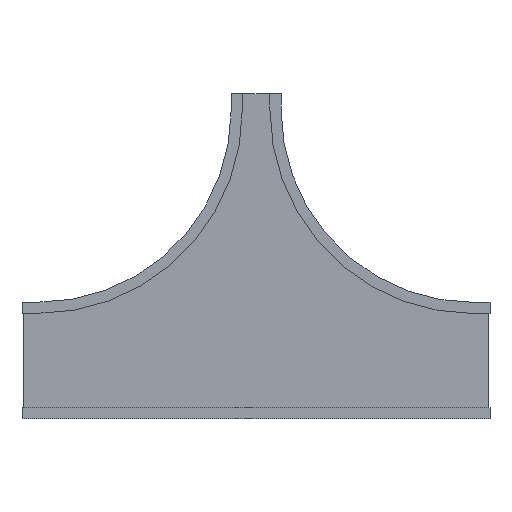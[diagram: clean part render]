
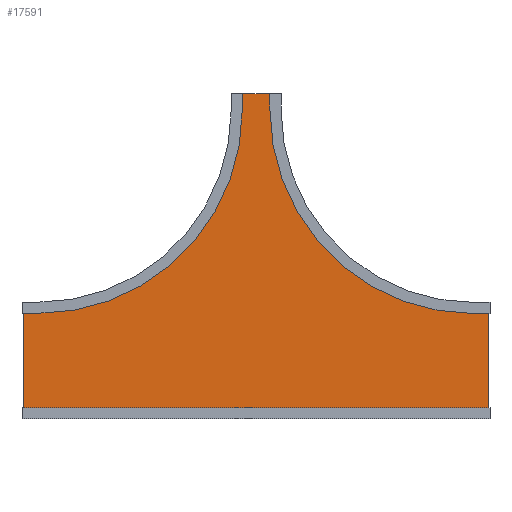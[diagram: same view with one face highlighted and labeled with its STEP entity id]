
A CAD part, front view. The second image highlights one B-rep face of the part: STEP entity #17591.
In plain terms, the highlighted planar face has unit normal (0, -1, 0).
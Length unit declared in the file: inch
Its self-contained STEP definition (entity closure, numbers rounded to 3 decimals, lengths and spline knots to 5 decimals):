
#17400=DIRECTION('',(1.,0.,0.));
#17401=VECTOR('',#17400,5.875);
#17402=CARTESIAN_POINT('',(-2.9375,0.,0.));
#17403=LINE('',#17402,#17401);
#17404=DIRECTION('',(0.,0.,-1.));
#17405=VECTOR('',#17404,2.875);
#17406=CARTESIAN_POINT('',(2.9375,0.,0.));
#17407=LINE('',#17406,#17405);
#17408=CARTESIAN_POINT('',(39.,0.,-2.875));
#17409=DIRECTION('',(0.,-1.,0.));
#17410=DIRECTION('',(-1.,0.,0.));
#17411=AXIS2_PLACEMENT_3D('',#17408,#17409,#17410);
#17413=DIRECTION('',(1.,0.,0.));
#17414=VECTOR('',#17413,2.875);
#17415=CARTESIAN_POINT('',(39.,0.,-38.9375));
#17416=LINE('',#17415,#17414);
#17417=DIRECTION('',(0.,0.,-1.));
#17418=VECTOR('',#17417,17.875);
#17419=CARTESIAN_POINT('',(41.875,0.,-38.9375));
#17420=LINE('',#17419,#17418);
#17421=DIRECTION('',(-1.,0.,0.));
#17422=VECTOR('',#17421,83.75);
#17423=CARTESIAN_POINT('',(41.875,0.,-56.8125));
#17424=LINE('',#17423,#17422);
#17425=DIRECTION('',(0.,0.,1.));
#17426=VECTOR('',#17425,17.875);
#17427=CARTESIAN_POINT('',(-41.875,0.,-56.8125));
#17428=LINE('',#17427,#17426);
#17429=DIRECTION('',(1.,0.,0.));
#17430=VECTOR('',#17429,2.875);
#17431=CARTESIAN_POINT('',(-41.875,0.,-38.9375));
#17432=LINE('',#17431,#17430);
#17433=CARTESIAN_POINT('',(-39.,0.,-2.875));
#17434=DIRECTION('',(0.,-1.,0.));
#17435=DIRECTION('',(0.,0.,-1.));
#17436=AXIS2_PLACEMENT_3D('',#17433,#17434,#17435);
#17438=DIRECTION('',(0.,0.,1.));
#17439=VECTOR('',#17438,2.875);
#17440=CARTESIAN_POINT('',(-2.9375,0.,-2.875));
#17441=LINE('',#17440,#17439);
#17524=CARTESIAN_POINT('',(-2.9375,0.,0.));
#17525=CARTESIAN_POINT('',(2.9375,0.,0.));
#17526=VERTEX_POINT('',#17524);
#17527=VERTEX_POINT('',#17525);
#17528=CARTESIAN_POINT('',(2.9375,0.,-2.875));
#17529=VERTEX_POINT('',#17528);
#17530=CARTESIAN_POINT('',(39.,0.,-38.9375));
#17531=VERTEX_POINT('',#17530);
#17532=CARTESIAN_POINT('',(41.875,0.,-38.9375));
#17533=VERTEX_POINT('',#17532);
#17534=CARTESIAN_POINT('',(41.875,0.,-56.8125));
#17535=VERTEX_POINT('',#17534);
#17536=CARTESIAN_POINT('',(-41.875,0.,-56.8125));
#17537=VERTEX_POINT('',#17536);
#17538=CARTESIAN_POINT('',(-41.875,0.,-38.9375));
#17539=VERTEX_POINT('',#17538);
#17540=CARTESIAN_POINT('',(-39.,0.,-38.9375));
#17541=VERTEX_POINT('',#17540);
#17542=CARTESIAN_POINT('',(-2.9375,0.,-2.875));
#17543=VERTEX_POINT('',#17542);
#17564=CARTESIAN_POINT('',(0.,0.,0.));
#17565=DIRECTION('',(0.,1.,0.));
#17566=DIRECTION('',(1.,0.,0.));
#17567=AXIS2_PLACEMENT_3D('',#17564,#17565,#17566);
#17568=PLANE('',#17567);
#17570=ORIENTED_EDGE('',*,*,#17569,.T.);
#17572=ORIENTED_EDGE('',*,*,#17571,.T.);
#17574=ORIENTED_EDGE('',*,*,#17573,.T.);
#17576=ORIENTED_EDGE('',*,*,#17575,.T.);
#17578=ORIENTED_EDGE('',*,*,#17577,.T.);
#17580=ORIENTED_EDGE('',*,*,#17579,.T.);
#17582=ORIENTED_EDGE('',*,*,#17581,.T.);
#17584=ORIENTED_EDGE('',*,*,#17583,.T.);
#17586=ORIENTED_EDGE('',*,*,#17585,.T.);
#17588=ORIENTED_EDGE('',*,*,#17587,.T.);
#17589=EDGE_LOOP('',(#17570,#17572,#17574,#17576,#17578,#17580,#17582,#17584,
#17586,#17588));
#17590=FACE_OUTER_BOUND('',#17589,.F.);
#17591=ADVANCED_FACE('',(#17590),#17568,.F.);
#17412=CIRCLE('',#17411,36.0625);
#17437=CIRCLE('',#17436,36.0625);
#17569=EDGE_CURVE('',#17526,#17527,#17403,.T.);
#17571=EDGE_CURVE('',#17527,#17529,#17407,.T.);
#17573=EDGE_CURVE('',#17529,#17531,#17412,.T.);
#17575=EDGE_CURVE('',#17531,#17533,#17416,.T.);
#17577=EDGE_CURVE('',#17533,#17535,#17420,.T.);
#17579=EDGE_CURVE('',#17535,#17537,#17424,.T.);
#17581=EDGE_CURVE('',#17537,#17539,#17428,.T.);
#17583=EDGE_CURVE('',#17539,#17541,#17432,.T.);
#17585=EDGE_CURVE('',#17541,#17543,#17437,.T.);
#17587=EDGE_CURVE('',#17543,#17526,#17441,.T.);
